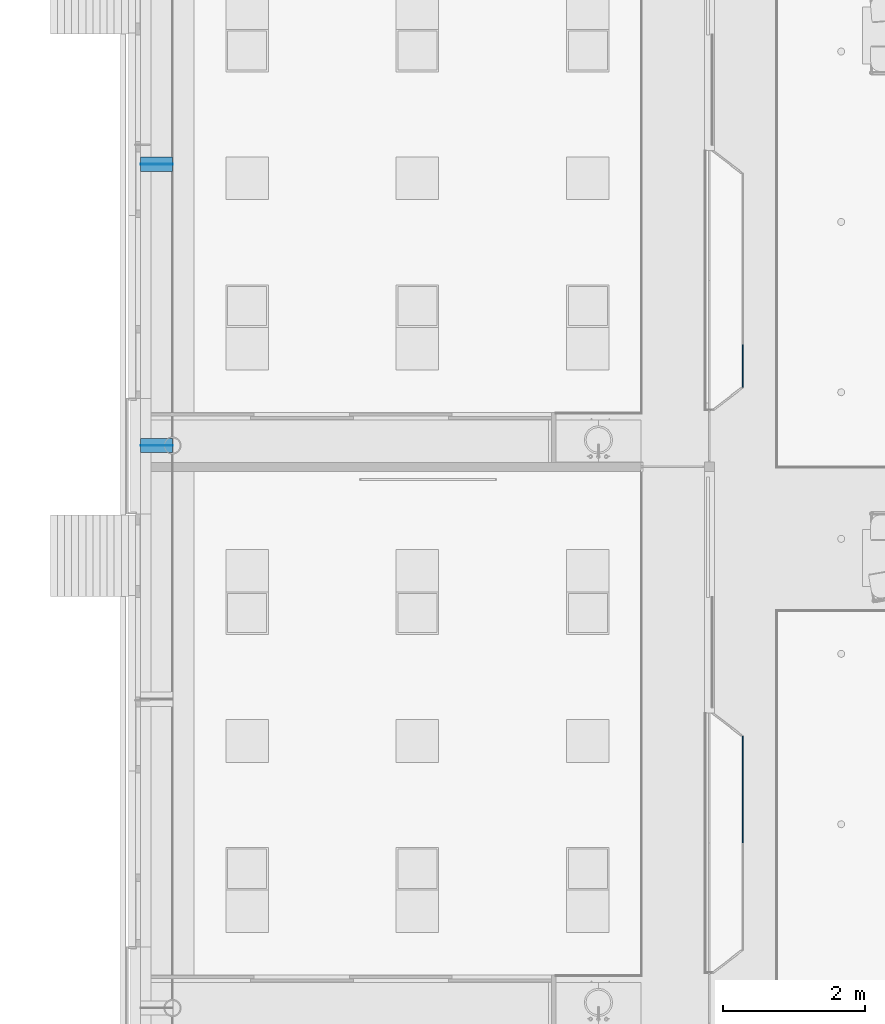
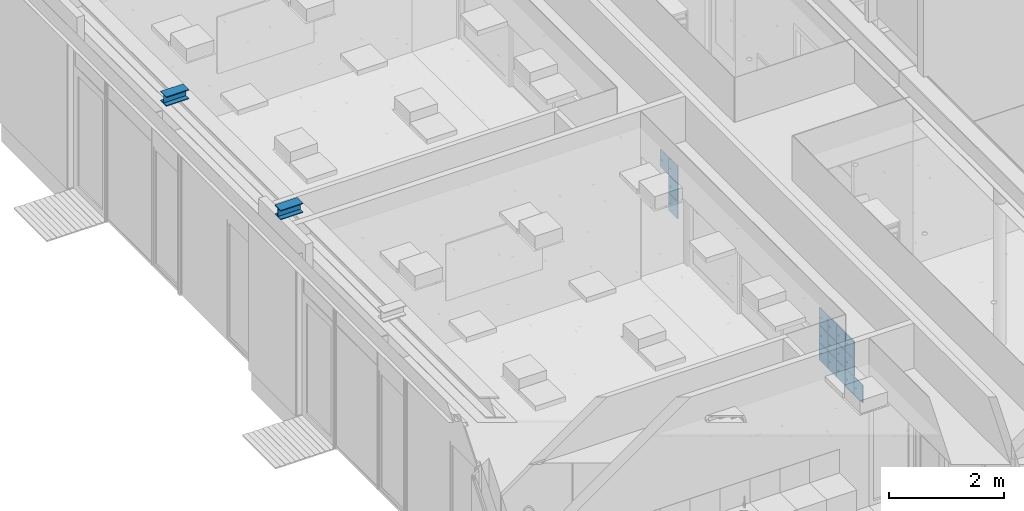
# One storey, part 131 of 347: 23 building element parts, 4 elements without a shape of their own.
"""IFC2X3 building model written with IfcOpenShell, lengths in millimetres."""

from ifc_helpers import new_model, entity, si_unit, converted_unit, derived_unit, money_unit, direction, frame, origin_with_axes, place, context, subcontext, project, spatial, faceted_brep, material, type_object, element, aggregate, save


model = new_model("IFC2X3")

# Units and contexts
model_context = context("Model", 3, precision=0.01, world=origin_with_axes(), true_north=direction((0.0, 1.0)))
plan_context = context("Plan", 3, precision=0.01, world=origin_with_axes(), true_north=direction((0.0, 1.0)))
body_context = subcontext(model_context, "Body", "Model", "MODEL_VIEW")
ifc_project = project(units=[si_unit("LENGTHUNIT", "METRE", prefix="MILLI"), si_unit("AREAUNIT", "SQUARE_METRE"), si_unit("VOLUMEUNIT", "CUBIC_METRE"), converted_unit("PLANEANGLEUNIT", "DEGREE", entity("IfcPlaneAngleMeasure", 0.0174532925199), si_unit("PLANEANGLEUNIT", "RADIAN"), dimensions=[0, 0, 0, 0, 0, 0, 0]), money_unit("EUR"), converted_unit("TIMEUNIT", "Year", entity("IfcTimeMeasure", 31556926.0), si_unit("TIMEUNIT", "SECOND"), dimensions=[0, 0, 1, 0, 0, 0, 0]), si_unit("MASSUNIT", "GRAM", prefix="KILO"), si_unit("THERMODYNAMICTEMPERATUREUNIT", "DEGREE_CELSIUS"), si_unit("LUMINOUSINTENSITYUNIT", "LUMEN"), si_unit("ENERGYUNIT", "JOULE", prefix="MEGA"), derived_unit("THERMALCONDUCTANCEUNIT", [(si_unit("POWERUNIT", "WATT"), 1), (si_unit("LENGTHUNIT", "METRE"), -1), (si_unit("THERMODYNAMICTEMPERATUREUNIT", "KELVIN"), -1)]), derived_unit("SPECIFICHEATCAPACITYUNIT", [(si_unit("ENERGYUNIT", "JOULE"), 1), (si_unit("MASSUNIT", "GRAM", prefix="KILO"), -1), (si_unit("THERMODYNAMICTEMPERATUREUNIT", "KELVIN"), -1)]), derived_unit("MASSDENSITYUNIT", [(si_unit("MASSUNIT", "GRAM", prefix="KILO"), 1), (si_unit("VOLUMEUNIT", "CUBIC_METRE"), -1)])], contexts=[model_context, plan_context])

# Site, building, storey
site_placement = place(None, origin_with_axes())
site = spatial("IfcSite", under=ifc_project, at=site_placement, Name="Site", CompositionType="ELEMENT")
building_placement = place(site_placement, origin_with_axes())
building = spatial("IfcBuilding", under=site, at=building_placement, Name="Naam gebouw", CompositionType="ELEMENT")
storey_placement = place(building_placement, origin_with_axes())
storey = spatial("IfcBuildingStorey", under=building, at=storey_placement, Name="begane grond", CompositionType="ELEMENT", Elevation=0.0)

# Beam, building element parts
beam_type_1 = type_object("IfcBeamType", Name="28 HEB200 200 x 200", PredefinedType="BEAM")
beam_1_placement = place(storey_placement, frame((24575.0, 28275.0, 3560.0), z_axis=(0.0, 0.0, 1.0), x_axis=(0.0, 1.0, 0.0)))
beam_1 = element("IfcBeam", 1, at=beam_1_placement, inside=storey, type_object=beam_type_1, Name="28_Balk-x", ObjectType="BEAM")
ifc_material_1 = material(Name="Metaal - Staal C")
building_element_part_1_placement = place(beam_1_placement, origin_with_axes())
building_element_part_1 = element("IfcBuildingElementPart", 2, at=building_element_part_1_placement, material=ifc_material_1, Name="Metaal - Staal C", context=body_context, shape_type="Brep", body=[
    faceted_brep([(-100.0, 450.0, 185.0), (-4.5, 450.0, 185.0), (-4.5, 0.0, 185.0), (-100.0, 0.0, 185.0), (-100.0, 450.0, 200.0), (100.0, 450.0, 200.0), (100.0, 450.0, 185.0), (4.5, 450.0, 185.0), (4.5, 0.0, 185.0), (100.0, 0.0, 185.0), (100.0, 0.0, 200.0), (-100.0, 0.0, 200.0)], [[[0, 1, 2, 3]], [[0, 4, 5, 6, 7, 1]], [[1, 7, 8, 2]], [[3, 2, 8, 9, 10, 11]], [[4, 0, 3, 11]], [[5, 4, 11, 10]], [[6, 5, 10, 9]], [[7, 6, 9, 8]]]),
])
building_element_part_2_placement = place(beam_1_placement, origin_with_axes())
building_element_part_2 = element("IfcBuildingElementPart", 3, at=building_element_part_2_placement, material=ifc_material_1, Name="Metaal - Staal C", context=body_context, shape_type="Brep", body=[
    faceted_brep([(-100.0, 450.0, 15.0), (-100.0, 450.0, 0.0), (-100.0, 0.0, 0.0), (-100.0, 0.0, 15.0), (-4.5, 450.0, 15.0), (4.5, 450.0, 15.0), (100.0, 450.0, 15.0), (100.0, 450.0, 0.0), (100.0, 0.0, 0.0), (100.0, 0.0, 15.0), (4.5, 0.0, 15.0), (-4.5, 0.0, 15.0)], [[[0, 1, 2, 3]], [[0, 4, 5, 6, 7, 1]], [[1, 7, 8, 2]], [[3, 2, 8, 9, 10, 11]], [[4, 0, 3, 11]], [[5, 4, 11, 10]], [[6, 5, 10, 9]], [[7, 6, 9, 8]]]),
])
building_element_part_3_placement = place(beam_1_placement, origin_with_axes())
building_element_part_3 = element("IfcBuildingElementPart", 4, at=building_element_part_3_placement, material=ifc_material_1, Name="Metaal - Staal C", context=body_context, shape_type="Brep", body=[
    faceted_brep([(-4.5, 450.0, 15.0), (4.5, 450.0, 15.0), (4.5, 0.0, 15.0), (-4.5, 0.0, 15.0), (-4.5, 450.0, 185.0), (4.5, 450.0, 185.0), (4.5, 0.0, 185.0), (-4.5, 0.0, 185.0)], [[[0, 1, 2, 3]], [[0, 4, 5, 1]], [[1, 5, 6, 2]], [[3, 2, 6, 7]], [[4, 0, 3, 7]], [[5, 4, 7, 6]]]),
])
aggregate(beam_1, [building_element_part_1, building_element_part_2, building_element_part_3])

beam_type_2 = type_object("IfcBeamType", Name="VI Garderobe 01 3012 x 1122", PredefinedType="BEAM")
beam_2_placement = place(storey_placement, frame((32618.0279766, 24180.5, 0.0), z_axis=(0.0, 0.0, 1.0), x_axis=(0.0, 1.0, 0.0)))
beam_2 = element("IfcBeam", 5, at=beam_2_placement, inside=storey, type_object=beam_type_2, Name="28_Balk-x", ObjectType="BEAM")
ifc_material_2 = material(Name="Hout - Lockers")
building_element_part_4_placement = place(beam_2_placement, origin_with_axes())
building_element_part_4 = element("IfcBuildingElementPart", 6, at=building_element_part_4_placement, material=ifc_material_2, Name="Hout - Lockers", context=body_context, shape_type="Brep", body=[
    faceted_brep([(-303.0, 18.0, 1175.0), (-303.0, 18.0, 802.0), (-303.0, 0.0, 802.0), (-303.0, 0.0, 1175.0), (0.0, 18.0, 1175.0), (0.0, 18.0, 802.0), (-72.7648820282, 18.0, 985.596289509), (-76.2025761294, 18.0, 975.016154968), (-72.7648820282, 18.0, 964.436020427), (-63.7648820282, 18.0, 957.897137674), (-52.6402702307, 18.0, 957.897137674), (-43.6402702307, 18.0, 964.436020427), (-40.2025761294, 18.0, 975.016154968), (-43.6402702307, 18.0, 985.596289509), (-52.6402702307, 18.0, 992.135172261), (-63.7648820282, 18.0, 992.135172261), (0.0, 0.0, 802.0), (0.0, 0.0, 1175.0), (-72.7648820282, 0.0, 985.596289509), (-63.7648820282, 0.0, 992.135172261), (-52.6402702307, 0.0, 992.135172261), (-43.6402702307, 0.0, 985.596289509), (-40.2025761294, 0.0, 975.016154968), (-43.6402702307, 0.0, 964.436020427), (-52.6402702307, 0.0, 957.897137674), (-63.7648820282, 0.0, 957.897137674), (-72.7648820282, 0.0, 964.436020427), (-76.2025761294, 0.0, 975.016154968)], [[[0, 1, 2, 3]], [[0, 4, 5, 1], [6, 7, 8, 9, 10, 11, 12, 13, 14, 15]], [[1, 5, 16, 2]], [[3, 2, 16, 17], [18, 19, 20, 21, 22, 23, 24, 25, 26, 27]], [[4, 0, 3, 17]], [[5, 4, 17, 16]], [[7, 6, 18, 27]], [[8, 7, 27, 26]], [[9, 8, 26, 25]], [[10, 9, 25, 24]], [[11, 10, 24, 23]], [[12, 11, 23, 22]], [[13, 12, 22, 21]], [[14, 13, 21, 20]], [[15, 14, 20, 19]], [[6, 15, 19, 18]]]),
])
building_element_part_5_placement = place(beam_2_placement, origin_with_axes())
building_element_part_5 = element("IfcBuildingElementPart", 7, at=building_element_part_5_placement, material=ifc_material_2, Name="Hout - Lockers", context=body_context, shape_type="Brep", body=[
    faceted_brep([(-303.0, 18.0, 796.0), (-303.0, 18.0, 432.0), (-303.0, 0.0, 432.0), (-303.0, 0.0, 796.0), (0.0, 18.0, 796.0), (0.0, 18.0, 432.0), (-47.9978639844, 18.0, 585.45264318), (-44.5601698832, 18.0, 596.032777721), (-47.9978639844, 18.0, 606.612912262), (-56.9978639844, 18.0, 613.151795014), (-68.1224757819, 18.0, 613.151795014), (-77.1224757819, 18.0, 606.612912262), (-80.5601698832, 18.0, 596.032777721), (-77.1224757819, 18.0, 585.45264318), (-68.1224757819, 18.0, 578.913760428), (-56.9978639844, 18.0, 578.913760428), (0.0, 0.0, 432.0), (0.0, 0.0, 796.0), (-47.9978639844, 0.0, 585.45264318), (-56.9978639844, 0.0, 578.913760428), (-68.1224757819, 0.0, 578.913760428), (-77.1224757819, 0.0, 585.45264318), (-80.5601698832, 0.0, 596.032777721), (-77.1224757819, 0.0, 606.612912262), (-68.1224757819, 0.0, 613.151795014), (-56.9978639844, 0.0, 613.151795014), (-47.9978639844, 0.0, 606.612912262), (-44.5601698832, 0.0, 596.032777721)], [[[0, 1, 2, 3]], [[0, 4, 5, 1], [6, 7, 8, 9, 10, 11, 12, 13, 14, 15]], [[1, 5, 16, 2]], [[3, 2, 16, 17], [18, 19, 20, 21, 22, 23, 24, 25, 26, 27]], [[4, 0, 3, 17]], [[5, 4, 17, 16]], [[7, 6, 18, 27]], [[8, 7, 27, 26]], [[9, 8, 26, 25]], [[10, 9, 25, 24]], [[11, 10, 24, 23]], [[12, 11, 23, 22]], [[13, 12, 22, 21]], [[14, 13, 21, 20]], [[15, 14, 20, 19]], [[6, 15, 19, 18]]]),
])
building_element_part_6_placement = place(beam_2_placement, origin_with_axes())
building_element_part_6 = element("IfcBuildingElementPart", 8, at=building_element_part_6_placement, material=ifc_material_2, Name="Hout - Lockers", context=body_context, shape_type="Brep", body=[
    faceted_brep([(-303.0, 18.0, 426.0), (-303.0, 18.0, 53.0), (-303.0, 0.0, 53.0), (-303.0, 0.0, 426.0), (0.0, 18.0, 426.0), (0.0, 18.0, 53.0), (-74.5623058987, 18.0, 236.580134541), (-78.0, 18.0, 226.0), (-74.5623058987, 18.0, 215.419865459), (-65.5623058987, 18.0, 208.880982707), (-54.4376941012, 18.0, 208.880982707), (-45.4376941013, 18.0, 215.419865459), (-42.0, 18.0, 226.0), (-45.4376941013, 18.0, 236.580134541), (-54.4376941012, 18.0, 243.119017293), (-65.5623058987, 18.0, 243.119017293), (0.0, 0.0, 53.0), (0.0, 0.0, 426.0), (-74.5623058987, 0.0, 236.580134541), (-65.5623058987, 0.0, 243.119017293), (-54.4376941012, 0.0, 243.119017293), (-45.4376941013, 0.0, 236.580134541), (-42.0, 0.0, 226.0), (-45.4376941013, 0.0, 215.419865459), (-54.4376941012, 0.0, 208.880982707), (-65.5623058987, 0.0, 208.880982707), (-74.5623058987, 0.0, 215.419865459), (-78.0, 0.0, 226.0)], [[[0, 1, 2, 3]], [[0, 4, 5, 1], [6, 7, 8, 9, 10, 11, 12, 13, 14, 15]], [[1, 5, 16, 2]], [[3, 2, 16, 17], [18, 19, 20, 21, 22, 23, 24, 25, 26, 27]], [[4, 0, 3, 17]], [[5, 4, 17, 16]], [[7, 6, 18, 27]], [[8, 7, 27, 26]], [[9, 8, 26, 25]], [[10, 9, 25, 24]], [[11, 10, 24, 23]], [[12, 11, 23, 22]], [[13, 12, 22, 21]], [[14, 13, 21, 20]], [[15, 14, 20, 19]], [[6, 15, 19, 18]]]),
])
building_element_part_7_placement = place(beam_2_placement, origin_with_axes())
building_element_part_7 = element("IfcBuildingElementPart", 9, at=building_element_part_7_placement, material=ifc_material_2, Name="Hout - Lockers", context=body_context, shape_type="Brep", body=[
    faceted_brep([(-1503.0, 18.0, 426.0), (-1503.0, 18.0, 53.0), (-1503.0, 0.0, 53.0), (-1503.0, 0.0, 426.0), (-1209.0, 18.0, 426.0), (-1209.0, 18.0, 53.0), (-1283.5623059, 18.0, 236.580134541), (-1287.0, 18.0, 226.0), (-1283.5623059, 18.0, 215.419865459), (-1274.5623059, 18.0, 208.880982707), (-1263.4376941, 18.0, 208.880982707), (-1254.4376941, 18.0, 215.419865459), (-1251.0, 18.0, 226.0), (-1254.4376941, 18.0, 236.580134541), (-1263.4376941, 18.0, 243.119017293), (-1274.5623059, 18.0, 243.119017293), (-1209.0, 0.0, 53.0), (-1209.0, 0.0, 426.0), (-1283.5623059, 0.0, 236.580134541), (-1274.5623059, 0.0, 243.119017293), (-1263.4376941, 0.0, 243.119017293), (-1254.4376941, 0.0, 236.580134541), (-1251.0, 0.0, 226.0), (-1254.4376941, 0.0, 215.419865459), (-1263.4376941, 0.0, 208.880982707), (-1274.5623059, 0.0, 208.880982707), (-1283.5623059, 0.0, 215.419865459), (-1287.0, 0.0, 226.0)], [[[0, 1, 2, 3]], [[0, 4, 5, 1], [6, 7, 8, 9, 10, 11, 12, 13, 14, 15]], [[1, 5, 16, 2]], [[3, 2, 16, 17], [18, 19, 20, 21, 22, 23, 24, 25, 26, 27]], [[4, 0, 3, 17]], [[5, 4, 17, 16]], [[7, 6, 18, 27]], [[8, 7, 27, 26]], [[9, 8, 26, 25]], [[10, 9, 25, 24]], [[11, 10, 24, 23]], [[12, 11, 23, 22]], [[13, 12, 22, 21]], [[14, 13, 21, 20]], [[15, 14, 20, 19]], [[6, 15, 19, 18]]]),
])
building_element_part_8_placement = place(beam_2_placement, origin_with_axes())
building_element_part_8 = element("IfcBuildingElementPart", 10, at=building_element_part_8_placement, material=ifc_material_2, Name="Hout - Lockers", context=body_context, shape_type="Brep", body=[
    faceted_brep([(-603.0, 18.0, 1175.0), (-603.0, 18.0, 802.0), (-603.0, 0.0, 802.0), (-603.0, 0.0, 1175.0), (-309.0, 18.0, 1175.0), (-309.0, 18.0, 802.0), (-383.562305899, 18.0, 985.580134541), (-387.0, 18.0, 975.0), (-383.562305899, 18.0, 964.419865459), (-374.562305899, 18.0, 957.880982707), (-363.437694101, 18.0, 957.880982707), (-354.437694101, 18.0, 964.419865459), (-351.0, 18.0, 975.0), (-354.437694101, 18.0, 985.580134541), (-363.437694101, 18.0, 992.119017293), (-374.562305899, 18.0, 992.119017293), (-309.0, 0.0, 802.0), (-309.0, 0.0, 1175.0), (-383.562305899, 0.0, 985.580134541), (-374.562305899, 0.0, 992.119017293), (-363.437694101, 0.0, 992.119017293), (-354.437694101, 0.0, 985.580134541), (-351.0, 0.0, 975.0), (-354.437694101, 0.0, 964.419865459), (-363.437694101, 0.0, 957.880982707), (-374.562305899, 0.0, 957.880982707), (-383.562305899, 0.0, 964.419865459), (-387.0, 0.0, 975.0)], [[[0, 1, 2, 3]], [[0, 4, 5, 1], [6, 7, 8, 9, 10, 11, 12, 13, 14, 15]], [[1, 5, 16, 2]], [[3, 2, 16, 17], [18, 19, 20, 21, 22, 23, 24, 25, 26, 27]], [[4, 0, 3, 17]], [[5, 4, 17, 16]], [[7, 6, 18, 27]], [[8, 7, 27, 26]], [[9, 8, 26, 25]], [[10, 9, 25, 24]], [[11, 10, 24, 23]], [[12, 11, 23, 22]], [[13, 12, 22, 21]], [[14, 13, 21, 20]], [[15, 14, 20, 19]], [[6, 15, 19, 18]]]),
])
building_element_part_9_placement = place(beam_2_placement, origin_with_axes())
building_element_part_9 = element("IfcBuildingElementPart", 11, at=building_element_part_9_placement, material=ifc_material_2, Name="Hout - Lockers", context=body_context, shape_type="Brep", body=[
    faceted_brep([(-603.0, 18.0, 796.0), (-603.0, 18.0, 432.0), (-603.0, 0.0, 432.0), (-603.0, 0.0, 796.0), (-309.0, 18.0, 796.0), (-309.0, 18.0, 432.0), (-383.562305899, 18.0, 606.580134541), (-387.0, 18.0, 596.0), (-383.562305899, 18.0, 585.419865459), (-374.562305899, 18.0, 578.880982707), (-363.437694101, 18.0, 578.880982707), (-354.437694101, 18.0, 585.419865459), (-351.0, 18.0, 596.0), (-354.437694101, 18.0, 606.580134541), (-363.437694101, 18.0, 613.119017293), (-374.562305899, 18.0, 613.119017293), (-309.0, 0.0, 432.0), (-309.0, 0.0, 796.0), (-383.562305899, 0.0, 606.580134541), (-374.562305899, 0.0, 613.119017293), (-363.437694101, 0.0, 613.119017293), (-354.437694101, 0.0, 606.580134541), (-351.0, 0.0, 596.0), (-354.437694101, 0.0, 585.419865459), (-363.437694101, 0.0, 578.880982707), (-374.562305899, 0.0, 578.880982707), (-383.562305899, 0.0, 585.419865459), (-387.0, 0.0, 596.0)], [[[0, 1, 2, 3]], [[0, 4, 5, 1], [6, 7, 8, 9, 10, 11, 12, 13, 14, 15]], [[1, 5, 16, 2]], [[3, 2, 16, 17], [18, 19, 20, 21, 22, 23, 24, 25, 26, 27]], [[4, 0, 3, 17]], [[5, 4, 17, 16]], [[7, 6, 18, 27]], [[8, 7, 27, 26]], [[9, 8, 26, 25]], [[10, 9, 25, 24]], [[11, 10, 24, 23]], [[12, 11, 23, 22]], [[13, 12, 22, 21]], [[14, 13, 21, 20]], [[15, 14, 20, 19]], [[6, 15, 19, 18]]]),
])
building_element_part_10_placement = place(beam_2_placement, origin_with_axes())
building_element_part_10 = element("IfcBuildingElementPart", 12, at=building_element_part_10_placement, material=ifc_material_2, Name="Hout - Lockers", context=body_context, shape_type="Brep", body=[
    faceted_brep([(-603.0, 18.0, 426.0), (-603.0, 18.0, 53.0), (-603.0, 0.0, 53.0), (-603.0, 0.0, 426.0), (-309.0, 18.0, 426.0), (-309.0, 18.0, 53.0), (-383.562305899, 18.0, 236.580134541), (-387.0, 18.0, 226.0), (-383.562305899, 18.0, 215.419865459), (-374.562305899, 18.0, 208.880982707), (-363.437694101, 18.0, 208.880982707), (-354.437694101, 18.0, 215.419865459), (-351.0, 18.0, 226.0), (-354.437694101, 18.0, 236.580134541), (-363.437694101, 18.0, 243.119017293), (-374.562305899, 18.0, 243.119017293), (-309.0, 0.0, 53.0), (-309.0, 0.0, 426.0), (-383.562305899, 0.0, 236.580134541), (-374.562305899, 0.0, 243.119017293), (-363.437694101, 0.0, 243.119017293), (-354.437694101, 0.0, 236.580134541), (-351.0, 0.0, 226.0), (-354.437694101, 0.0, 215.419865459), (-363.437694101, 0.0, 208.880982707), (-374.562305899, 0.0, 208.880982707), (-383.562305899, 0.0, 215.419865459), (-387.0, 0.0, 226.0)], [[[0, 1, 2, 3]], [[0, 4, 5, 1], [6, 7, 8, 9, 10, 11, 12, 13, 14, 15]], [[1, 5, 16, 2]], [[3, 2, 16, 17], [18, 19, 20, 21, 22, 23, 24, 25, 26, 27]], [[4, 0, 3, 17]], [[5, 4, 17, 16]], [[7, 6, 18, 27]], [[8, 7, 27, 26]], [[9, 8, 26, 25]], [[10, 9, 25, 24]], [[11, 10, 24, 23]], [[12, 11, 23, 22]], [[13, 12, 22, 21]], [[14, 13, 21, 20]], [[15, 14, 20, 19]], [[6, 15, 19, 18]]]),
])
building_element_part_11_placement = place(beam_2_placement, origin_with_axes())
building_element_part_11 = element("IfcBuildingElementPart", 13, at=building_element_part_11_placement, material=ifc_material_2, Name="Hout - Lockers", context=body_context, shape_type="Brep", body=[
    faceted_brep([(-1203.0, 18.0, 1175.0), (-1203.0, 18.0, 802.0), (-1203.0, 0.0, 802.0), (-1203.0, 0.0, 1175.0), (-909.0, 18.0, 1175.0), (-909.0, 18.0, 802.0), (-983.562305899, 18.0, 985.580134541), (-987.0, 18.0, 975.0), (-983.562305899, 18.0, 964.419865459), (-974.562305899, 18.0, 957.880982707), (-963.437694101, 18.0, 957.880982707), (-954.437694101, 18.0, 964.419865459), (-951.0, 18.0, 975.0), (-954.437694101, 18.0, 985.580134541), (-963.437694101, 18.0, 992.119017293), (-974.562305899, 18.0, 992.119017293), (-909.0, 0.0, 802.0), (-909.0, 0.0, 1175.0), (-983.562305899, 0.0, 985.580134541), (-974.562305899, 0.0, 992.119017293), (-963.437694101, 0.0, 992.119017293), (-954.437694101, 0.0, 985.580134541), (-951.0, 0.0, 975.0), (-954.437694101, 0.0, 964.419865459), (-963.437694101, 0.0, 957.880982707), (-974.562305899, 0.0, 957.880982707), (-983.562305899, 0.0, 964.419865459), (-987.0, 0.0, 975.0)], [[[0, 1, 2, 3]], [[0, 4, 5, 1], [6, 7, 8, 9, 10, 11, 12, 13, 14, 15]], [[1, 5, 16, 2]], [[3, 2, 16, 17], [18, 19, 20, 21, 22, 23, 24, 25, 26, 27]], [[4, 0, 3, 17]], [[5, 4, 17, 16]], [[7, 6, 18, 27]], [[8, 7, 27, 26]], [[9, 8, 26, 25]], [[10, 9, 25, 24]], [[11, 10, 24, 23]], [[12, 11, 23, 22]], [[13, 12, 22, 21]], [[14, 13, 21, 20]], [[15, 14, 20, 19]], [[6, 15, 19, 18]]]),
])
building_element_part_12_placement = place(beam_2_placement, origin_with_axes())
building_element_part_12 = element("IfcBuildingElementPart", 14, at=building_element_part_12_placement, material=ifc_material_2, Name="Hout - Lockers", context=body_context, shape_type="Brep", body=[
    faceted_brep([(-1203.0, 18.0, 796.0), (-1203.0, 18.0, 432.0), (-1203.0, 0.0, 432.0), (-1203.0, 0.0, 796.0), (-909.0, 18.0, 796.0), (-909.0, 18.0, 432.0), (-983.562305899, 18.0, 606.580134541), (-987.0, 18.0, 596.0), (-983.562305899, 18.0, 585.419865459), (-974.562305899, 18.0, 578.880982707), (-963.437694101, 18.0, 578.880982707), (-954.437694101, 18.0, 585.419865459), (-951.0, 18.0, 596.0), (-954.437694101, 18.0, 606.580134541), (-963.437694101, 18.0, 613.119017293), (-974.562305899, 18.0, 613.119017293), (-909.0, 0.0, 432.0), (-909.0, 0.0, 796.0), (-983.562305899, 0.0, 606.580134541), (-974.562305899, 0.0, 613.119017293), (-963.437694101, 0.0, 613.119017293), (-954.437694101, 0.0, 606.580134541), (-951.0, 0.0, 596.0), (-954.437694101, 0.0, 585.419865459), (-963.437694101, 0.0, 578.880982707), (-974.562305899, 0.0, 578.880982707), (-983.562305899, 0.0, 585.419865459), (-987.0, 0.0, 596.0)], [[[0, 1, 2, 3]], [[0, 4, 5, 1], [6, 7, 8, 9, 10, 11, 12, 13, 14, 15]], [[1, 5, 16, 2]], [[3, 2, 16, 17], [18, 19, 20, 21, 22, 23, 24, 25, 26, 27]], [[4, 0, 3, 17]], [[5, 4, 17, 16]], [[7, 6, 18, 27]], [[8, 7, 27, 26]], [[9, 8, 26, 25]], [[10, 9, 25, 24]], [[11, 10, 24, 23]], [[12, 11, 23, 22]], [[13, 12, 22, 21]], [[14, 13, 21, 20]], [[15, 14, 20, 19]], [[6, 15, 19, 18]]]),
])
building_element_part_13_placement = place(beam_2_placement, origin_with_axes())
building_element_part_13 = element("IfcBuildingElementPart", 15, at=building_element_part_13_placement, material=ifc_material_2, Name="Hout - Lockers", context=body_context, shape_type="Brep", body=[
    faceted_brep([(-1203.0, 18.0, 426.0), (-1203.0, 18.0, 53.0), (-1203.0, 0.0, 53.0), (-1203.0, 0.0, 426.0), (-909.0, 18.0, 426.0), (-909.0, 18.0, 53.0), (-983.562305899, 18.0, 236.580134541), (-987.0, 18.0, 226.0), (-983.562305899, 18.0, 215.419865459), (-974.562305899, 18.0, 208.880982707), (-963.437694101, 18.0, 208.880982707), (-954.437694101, 18.0, 215.419865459), (-951.0, 18.0, 226.0), (-954.437694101, 18.0, 236.580134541), (-963.437694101, 18.0, 243.119017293), (-974.562305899, 18.0, 243.119017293), (-909.0, 0.0, 53.0), (-909.0, 0.0, 426.0), (-983.562305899, 0.0, 236.580134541), (-974.562305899, 0.0, 243.119017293), (-963.437694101, 0.0, 243.119017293), (-954.437694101, 0.0, 236.580134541), (-951.0, 0.0, 226.0), (-954.437694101, 0.0, 215.419865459), (-963.437694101, 0.0, 208.880982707), (-974.562305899, 0.0, 208.880982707), (-983.562305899, 0.0, 215.419865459), (-987.0, 0.0, 226.0)], [[[0, 1, 2, 3]], [[0, 4, 5, 1], [6, 7, 8, 9, 10, 11, 12, 13, 14, 15]], [[1, 5, 16, 2]], [[3, 2, 16, 17], [18, 19, 20, 21, 22, 23, 24, 25, 26, 27]], [[4, 0, 3, 17]], [[5, 4, 17, 16]], [[7, 6, 18, 27]], [[8, 7, 27, 26]], [[9, 8, 26, 25]], [[10, 9, 25, 24]], [[11, 10, 24, 23]], [[12, 11, 23, 22]], [[13, 12, 22, 21]], [[14, 13, 21, 20]], [[15, 14, 20, 19]], [[6, 15, 19, 18]]]),
])
building_element_part_14_placement = place(beam_2_placement, origin_with_axes())
building_element_part_14 = element("IfcBuildingElementPart", 16, at=building_element_part_14_placement, material=ifc_material_2, Name="Hout - Lockers", context=body_context, shape_type="Brep", body=[
    faceted_brep([(-903.0, 18.0, 1175.0), (-903.0, 18.0, 802.0), (-903.0, 0.0, 802.0), (-903.0, 0.0, 1175.0), (-609.0, 18.0, 1175.0), (-609.0, 18.0, 802.0), (-683.562305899, 18.0, 985.580134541), (-687.0, 18.0, 975.0), (-683.562305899, 18.0, 964.419865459), (-674.562305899, 18.0, 957.880982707), (-663.437694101, 18.0, 957.880982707), (-654.437694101, 18.0, 964.419865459), (-651.0, 18.0, 975.0), (-654.437694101, 18.0, 985.580134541), (-663.437694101, 18.0, 992.119017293), (-674.562305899, 18.0, 992.119017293), (-609.0, 0.0, 802.0), (-609.0, 0.0, 1175.0), (-683.562305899, 0.0, 985.580134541), (-674.562305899, 0.0, 992.119017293), (-663.437694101, 0.0, 992.119017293), (-654.437694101, 0.0, 985.580134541), (-651.0, 0.0, 975.0), (-654.437694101, 0.0, 964.419865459), (-663.437694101, 0.0, 957.880982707), (-674.562305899, 0.0, 957.880982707), (-683.562305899, 0.0, 964.419865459), (-687.0, 0.0, 975.0)], [[[0, 1, 2, 3]], [[0, 4, 5, 1], [6, 7, 8, 9, 10, 11, 12, 13, 14, 15]], [[1, 5, 16, 2]], [[3, 2, 16, 17], [18, 19, 20, 21, 22, 23, 24, 25, 26, 27]], [[4, 0, 3, 17]], [[5, 4, 17, 16]], [[7, 6, 18, 27]], [[8, 7, 27, 26]], [[9, 8, 26, 25]], [[10, 9, 25, 24]], [[11, 10, 24, 23]], [[12, 11, 23, 22]], [[13, 12, 22, 21]], [[14, 13, 21, 20]], [[15, 14, 20, 19]], [[6, 15, 19, 18]]]),
])
building_element_part_15_placement = place(beam_2_placement, origin_with_axes())
building_element_part_15 = element("IfcBuildingElementPart", 17, at=building_element_part_15_placement, material=ifc_material_2, Name="Hout - Lockers", context=body_context, shape_type="Brep", body=[
    faceted_brep([(-903.0, 18.0, 796.0), (-903.0, 18.0, 432.0), (-903.0, 0.0, 432.0), (-903.0, 0.0, 796.0), (-609.0, 18.0, 796.0), (-609.0, 18.0, 432.0), (-683.562305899, 18.0, 606.580134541), (-687.0, 18.0, 596.0), (-683.562305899, 18.0, 585.419865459), (-674.562305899, 18.0, 578.880982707), (-663.437694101, 18.0, 578.880982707), (-654.437694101, 18.0, 585.419865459), (-651.0, 18.0, 596.0), (-654.437694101, 18.0, 606.580134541), (-663.437694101, 18.0, 613.119017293), (-674.562305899, 18.0, 613.119017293), (-609.0, 0.0, 432.0), (-609.0, 0.0, 796.0), (-683.562305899, 0.0, 606.580134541), (-674.562305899, 0.0, 613.119017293), (-663.437694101, 0.0, 613.119017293), (-654.437694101, 0.0, 606.580134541), (-651.0, 0.0, 596.0), (-654.437694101, 0.0, 585.419865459), (-663.437694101, 0.0, 578.880982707), (-674.562305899, 0.0, 578.880982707), (-683.562305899, 0.0, 585.419865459), (-687.0, 0.0, 596.0)], [[[0, 1, 2, 3]], [[0, 4, 5, 1], [6, 7, 8, 9, 10, 11, 12, 13, 14, 15]], [[1, 5, 16, 2]], [[3, 2, 16, 17], [18, 19, 20, 21, 22, 23, 24, 25, 26, 27]], [[4, 0, 3, 17]], [[5, 4, 17, 16]], [[7, 6, 18, 27]], [[8, 7, 27, 26]], [[9, 8, 26, 25]], [[10, 9, 25, 24]], [[11, 10, 24, 23]], [[12, 11, 23, 22]], [[13, 12, 22, 21]], [[14, 13, 21, 20]], [[15, 14, 20, 19]], [[6, 15, 19, 18]]]),
])
building_element_part_16_placement = place(beam_2_placement, origin_with_axes())
building_element_part_16 = element("IfcBuildingElementPart", 18, at=building_element_part_16_placement, material=ifc_material_2, Name="Hout - Lockers", context=body_context, shape_type="Brep", body=[
    faceted_brep([(-903.0, 18.0, 426.0), (-903.0, 18.0, 53.0), (-903.0, 0.0, 53.0), (-903.0, 0.0, 426.0), (-609.0, 18.0, 426.0), (-609.0, 18.0, 53.0), (-683.562305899, 18.0, 236.580134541), (-687.0, 18.0, 226.0), (-683.562305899, 18.0, 215.419865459), (-674.562305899, 18.0, 208.880982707), (-663.437694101, 18.0, 208.880982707), (-654.437694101, 18.0, 215.419865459), (-651.0, 18.0, 226.0), (-654.437694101, 18.0, 236.580134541), (-663.437694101, 18.0, 243.119017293), (-674.562305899, 18.0, 243.119017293), (-609.0, 0.0, 53.0), (-609.0, 0.0, 426.0), (-683.562305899, 0.0, 236.580134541), (-674.562305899, 0.0, 243.119017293), (-663.437694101, 0.0, 243.119017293), (-654.437694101, 0.0, 236.580134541), (-651.0, 0.0, 226.0), (-654.437694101, 0.0, 215.419865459), (-663.437694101, 0.0, 208.880982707), (-674.562305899, 0.0, 208.880982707), (-683.562305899, 0.0, 215.419865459), (-687.0, 0.0, 226.0)], [[[0, 1, 2, 3]], [[0, 4, 5, 1], [6, 7, 8, 9, 10, 11, 12, 13, 14, 15]], [[1, 5, 16, 2]], [[3, 2, 16, 17], [18, 19, 20, 21, 22, 23, 24, 25, 26, 27]], [[4, 0, 3, 17]], [[5, 4, 17, 16]], [[7, 6, 18, 27]], [[8, 7, 27, 26]], [[9, 8, 26, 25]], [[10, 9, 25, 24]], [[11, 10, 24, 23]], [[12, 11, 23, 22]], [[13, 12, 22, 21]], [[14, 13, 21, 20]], [[15, 14, 20, 19]], [[6, 15, 19, 18]]]),
])
aggregate(beam_2, [building_element_part_4, building_element_part_5, building_element_part_6, building_element_part_7, building_element_part_8, building_element_part_9, building_element_part_10, building_element_part_11, building_element_part_12, building_element_part_13, building_element_part_14, building_element_part_15, building_element_part_16])

beam_3_placement = place(storey_placement, frame((32618.0279766, 32105.5, 0.0), z_axis=(0.0, 0.0, 1.0), x_axis=(0.0, 1.0, 0.0)))
beam_3 = element("IfcBeam", 19, at=beam_3_placement, inside=storey, type_object=beam_type_2, Name="28_Balk-x", ObjectType="BEAM")
building_element_part_17_placement = place(beam_3_placement, origin_with_axes())
building_element_part_17 = element("IfcBuildingElementPart", 20, at=building_element_part_17_placement, material=ifc_material_2, Name="Hout - Lockers", context=body_context, shape_type="Brep", body=[
    faceted_brep([(-3012.0, 18.0, 1175.0), (-3012.0, 18.0, 802.0), (-3012.0, 0.0, 802.0), (-3012.0, 0.0, 1175.0), (-2709.0, 18.0, 1175.0), (-2709.0, 18.0, 802.0), (-2783.5623059, 18.0, 985.580134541), (-2787.0, 18.0, 975.0), (-2783.5623059, 18.0, 964.419865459), (-2774.5623059, 18.0, 957.880982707), (-2763.4376941, 18.0, 957.880982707), (-2754.4376941, 18.0, 964.419865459), (-2751.0, 18.0, 975.0), (-2754.4376941, 18.0, 985.580134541), (-2763.4376941, 18.0, 992.119017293), (-2774.5623059, 18.0, 992.119017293), (-2709.0, 0.0, 802.0), (-2709.0, 0.0, 1175.0), (-2783.5623059, 0.0, 985.580134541), (-2774.5623059, 0.0, 992.119017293), (-2763.4376941, 0.0, 992.119017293), (-2754.4376941, 0.0, 985.580134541), (-2751.0, 0.0, 975.0), (-2754.4376941, 0.0, 964.419865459), (-2763.4376941, 0.0, 957.880982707), (-2774.5623059, 0.0, 957.880982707), (-2783.5623059, 0.0, 964.419865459), (-2787.0, 0.0, 975.0)], [[[0, 1, 2, 3]], [[0, 4, 5, 1], [6, 7, 8, 9, 10, 11, 12, 13, 14, 15]], [[1, 5, 16, 2]], [[3, 2, 16, 17], [18, 19, 20, 21, 22, 23, 24, 25, 26, 27]], [[4, 0, 3, 17]], [[5, 4, 17, 16]], [[7, 6, 18, 27]], [[8, 7, 27, 26]], [[9, 8, 26, 25]], [[10, 9, 25, 24]], [[11, 10, 24, 23]], [[12, 11, 23, 22]], [[13, 12, 22, 21]], [[14, 13, 21, 20]], [[15, 14, 20, 19]], [[6, 15, 19, 18]]]),
])
building_element_part_18_placement = place(beam_3_placement, origin_with_axes())
building_element_part_18 = element("IfcBuildingElementPart", 21, at=building_element_part_18_placement, material=ifc_material_2, Name="Hout - Lockers", context=body_context, shape_type="Brep", body=[
    faceted_brep([(-3012.0, 18.0, 796.0), (-3012.0, 18.0, 432.0), (-3012.0, 0.0, 432.0), (-3012.0, 0.0, 796.0), (-2709.0, 18.0, 796.0), (-2709.0, 18.0, 432.0), (-2783.5623059, 18.0, 606.580134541), (-2787.0, 18.0, 596.0), (-2783.5623059, 18.0, 585.419865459), (-2774.5623059, 18.0, 578.880982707), (-2763.4376941, 18.0, 578.880982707), (-2754.4376941, 18.0, 585.419865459), (-2751.0, 18.0, 596.0), (-2754.4376941, 18.0, 606.580134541), (-2763.4376941, 18.0, 613.119017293), (-2774.5623059, 18.0, 613.119017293), (-2709.0, 0.0, 432.0), (-2709.0, 0.0, 796.0), (-2783.5623059, 0.0, 606.580134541), (-2774.5623059, 0.0, 613.119017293), (-2763.4376941, 0.0, 613.119017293), (-2754.4376941, 0.0, 606.580134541), (-2751.0, 0.0, 596.0), (-2754.4376941, 0.0, 585.419865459), (-2763.4376941, 0.0, 578.880982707), (-2774.5623059, 0.0, 578.880982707), (-2783.5623059, 0.0, 585.419865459), (-2787.0, 0.0, 596.0)], [[[0, 1, 2, 3]], [[0, 4, 5, 1], [6, 7, 8, 9, 10, 11, 12, 13, 14, 15]], [[1, 5, 16, 2]], [[3, 2, 16, 17], [18, 19, 20, 21, 22, 23, 24, 25, 26, 27]], [[4, 0, 3, 17]], [[5, 4, 17, 16]], [[7, 6, 18, 27]], [[8, 7, 27, 26]], [[9, 8, 26, 25]], [[10, 9, 25, 24]], [[11, 10, 24, 23]], [[12, 11, 23, 22]], [[13, 12, 22, 21]], [[14, 13, 21, 20]], [[15, 14, 20, 19]], [[6, 15, 19, 18]]]),
])
building_element_part_19_placement = place(beam_3_placement, origin_with_axes())
building_element_part_19 = element("IfcBuildingElementPart", 22, at=building_element_part_19_placement, material=ifc_material_2, Name="Hout - Lockers", context=body_context, shape_type="Brep", body=[
    faceted_brep([(-3012.0, 18.0, 426.0), (-3012.0, 18.0, 53.0), (-3012.0, 0.0, 53.0), (-3012.0, 0.0, 426.0), (-2709.0, 18.0, 426.0), (-2709.0, 18.0, 53.0), (-2782.1615884, 18.0, 236.58994507), (-2785.5992825, 18.0, 226.009810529), (-2782.1615884, 18.0, 215.429675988), (-2773.1615884, 18.0, 208.890793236), (-2762.0369766, 18.0, 208.890793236), (-2753.0369766, 18.0, 215.429675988), (-2749.5992825, 18.0, 226.009810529), (-2753.0369766, 18.0, 236.58994507), (-2762.0369766, 18.0, 243.128827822), (-2773.1615884, 18.0, 243.128827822), (-2709.0, 0.0, 53.0), (-2709.0, 0.0, 426.0), (-2782.1615884, 0.0, 236.58994507), (-2773.1615884, 0.0, 243.128827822), (-2762.0369766, 0.0, 243.128827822), (-2753.0369766, 0.0, 236.58994507), (-2749.5992825, 0.0, 226.009810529), (-2753.0369766, 0.0, 215.429675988), (-2762.0369766, 0.0, 208.890793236), (-2773.1615884, 0.0, 208.890793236), (-2782.1615884, 0.0, 215.429675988), (-2785.5992825, 0.0, 226.009810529)], [[[0, 1, 2, 3]], [[0, 4, 5, 1], [6, 7, 8, 9, 10, 11, 12, 13, 14, 15]], [[1, 5, 16, 2]], [[3, 2, 16, 17], [18, 19, 20, 21, 22, 23, 24, 25, 26, 27]], [[4, 0, 3, 17]], [[5, 4, 17, 16]], [[7, 6, 18, 27]], [[8, 7, 27, 26]], [[9, 8, 26, 25]], [[10, 9, 25, 24]], [[11, 10, 24, 23]], [[12, 11, 23, 22]], [[13, 12, 22, 21]], [[14, 13, 21, 20]], [[15, 14, 20, 19]], [[6, 15, 19, 18]]]),
])
building_element_part_20_placement = place(beam_3_placement, origin_with_axes())
building_element_part_20 = element("IfcBuildingElementPart", 23, at=building_element_part_20_placement, material=ifc_material_2, Name="Hout - Lockers", context=body_context, shape_type="Brep", body=[
    faceted_brep([(-2703.0, 18.0, 1175.0), (-2703.0, 18.0, 802.0), (-2703.0, 0.0, 802.0), (-2703.0, 0.0, 1175.0), (-2409.0, 18.0, 1175.0), (-2409.0, 18.0, 802.0), (-2483.5623059, 18.0, 985.580134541), (-2487.0, 18.0, 975.0), (-2483.5623059, 18.0, 964.419865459), (-2474.5623059, 18.0, 957.880982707), (-2463.4376941, 18.0, 957.880982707), (-2454.4376941, 18.0, 964.419865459), (-2451.0, 18.0, 975.0), (-2454.4376941, 18.0, 985.580134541), (-2463.4376941, 18.0, 992.119017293), (-2474.5623059, 18.0, 992.119017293), (-2409.0, 0.0, 802.0), (-2409.0, 0.0, 1175.0), (-2483.5623059, 0.0, 985.580134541), (-2474.5623059, 0.0, 992.119017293), (-2463.4376941, 0.0, 992.119017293), (-2454.4376941, 0.0, 985.580134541), (-2451.0, 0.0, 975.0), (-2454.4376941, 0.0, 964.419865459), (-2463.4376941, 0.0, 957.880982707), (-2474.5623059, 0.0, 957.880982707), (-2483.5623059, 0.0, 964.419865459), (-2487.0, 0.0, 975.0)], [[[0, 1, 2, 3]], [[0, 4, 5, 1], [6, 7, 8, 9, 10, 11, 12, 13, 14, 15]], [[1, 5, 16, 2]], [[3, 2, 16, 17], [18, 19, 20, 21, 22, 23, 24, 25, 26, 27]], [[4, 0, 3, 17]], [[5, 4, 17, 16]], [[7, 6, 18, 27]], [[8, 7, 27, 26]], [[9, 8, 26, 25]], [[10, 9, 25, 24]], [[11, 10, 24, 23]], [[12, 11, 23, 22]], [[13, 12, 22, 21]], [[14, 13, 21, 20]], [[15, 14, 20, 19]], [[6, 15, 19, 18]]]),
])
aggregate(beam_3, [building_element_part_17, building_element_part_18, building_element_part_19, building_element_part_20])

beam_4_placement = place(storey_placement, frame((24575.0, 32237.5, 3560.0), z_axis=(0.0, 0.0, 1.0), x_axis=(0.0, 1.0, 0.0)))
beam_4 = element("IfcBeam", 24, at=beam_4_placement, inside=storey, type_object=beam_type_1, Name="28_Balk-x", ObjectType="BEAM")
building_element_part_21_placement = place(beam_4_placement, origin_with_axes())
building_element_part_21 = element("IfcBuildingElementPart", 25, at=building_element_part_21_placement, material=ifc_material_1, Name="Metaal - Staal C", context=body_context, shape_type="Brep", body=[
    faceted_brep([(-100.0, 450.0, 185.0), (-4.5, 450.0, 185.0), (-4.5, 0.0, 185.0), (-100.0, 0.0, 185.0), (-100.0, 450.0, 200.0), (100.0, 450.0, 200.0), (100.0, 450.0, 185.0), (4.5, 450.0, 185.0), (4.5, 0.0, 185.0), (100.0, 0.0, 185.0), (100.0, 0.0, 200.0), (-100.0, 0.0, 200.0)], [[[0, 1, 2, 3]], [[0, 4, 5, 6, 7, 1]], [[1, 7, 8, 2]], [[3, 2, 8, 9, 10, 11]], [[4, 0, 3, 11]], [[5, 4, 11, 10]], [[6, 5, 10, 9]], [[7, 6, 9, 8]]]),
])
building_element_part_22_placement = place(beam_4_placement, origin_with_axes())
building_element_part_22 = element("IfcBuildingElementPart", 26, at=building_element_part_22_placement, material=ifc_material_1, Name="Metaal - Staal C", context=body_context, shape_type="Brep", body=[
    faceted_brep([(-100.0, 450.0, 15.0), (-100.0, 450.0, 0.0), (-100.0, 0.0, 0.0), (-100.0, 0.0, 15.0), (-4.5, 450.0, 15.0), (4.5, 450.0, 15.0), (100.0, 450.0, 15.0), (100.0, 450.0, 0.0), (100.0, 0.0, 0.0), (100.0, 0.0, 15.0), (4.5, 0.0, 15.0), (-4.5, 0.0, 15.0)], [[[0, 1, 2, 3]], [[0, 4, 5, 6, 7, 1]], [[1, 7, 8, 2]], [[3, 2, 8, 9, 10, 11]], [[4, 0, 3, 11]], [[5, 4, 11, 10]], [[6, 5, 10, 9]], [[7, 6, 9, 8]]]),
])
building_element_part_23_placement = place(beam_4_placement, origin_with_axes())
building_element_part_23 = element("IfcBuildingElementPart", 27, at=building_element_part_23_placement, material=ifc_material_1, Name="Metaal - Staal C", context=body_context, shape_type="Brep", body=[
    faceted_brep([(-4.5, 450.0, 15.0), (4.5, 450.0, 15.0), (4.5, 0.0, 15.0), (-4.5, 0.0, 15.0), (-4.5, 450.0, 185.0), (4.5, 450.0, 185.0), (4.5, 0.0, 185.0), (-4.5, 0.0, 185.0)], [[[0, 1, 2, 3]], [[0, 4, 5, 1]], [[1, 5, 6, 2]], [[3, 2, 6, 7]], [[4, 0, 3, 7]], [[5, 4, 7, 6]]]),
])
aggregate(beam_4, [building_element_part_21, building_element_part_22, building_element_part_23])

save(model, "model.ifc")
